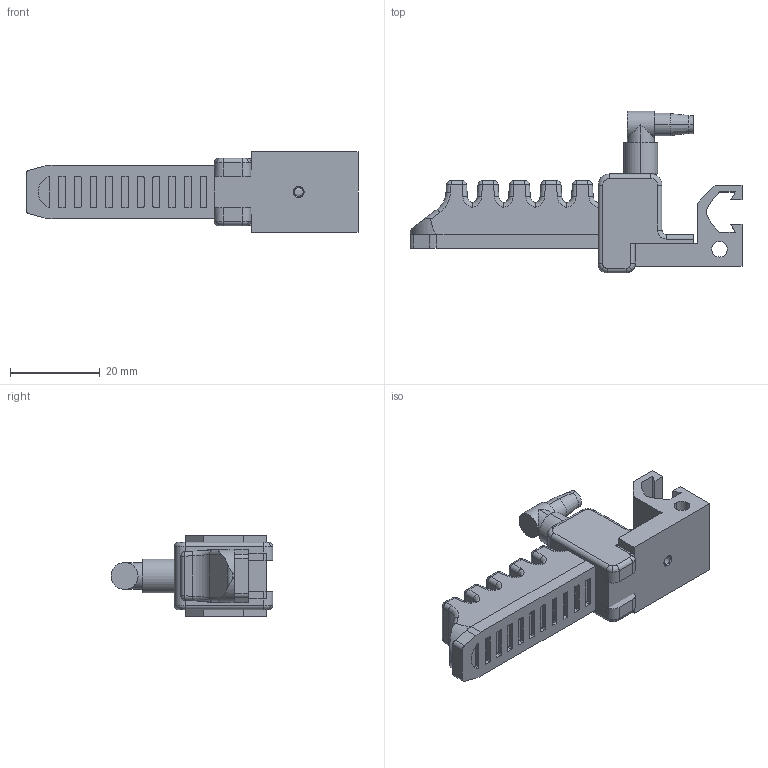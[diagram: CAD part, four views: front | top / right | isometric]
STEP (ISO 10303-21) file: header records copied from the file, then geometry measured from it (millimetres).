
FILE_DESCRIPTION (( 'STEP AP214' ), '1' );
FILE_NAME ('GFM-C6V5.STEP', '2019-12-04T05:57:38', ( '微软用户' ), ( '微软中国' ), 'SwSTEP 2.0', 'SolidWorks 2016', '' );
FILE_SCHEMA (( 'AUTOMOTIVE_DESIGN' ));
Length unit declared in the file: millimetre
Products named in the file (1): GFM-C6V5
Bounding box: 73.85 x 36 x 18 mm (x, y, z)
Volume: 13395.5 mm3; surface area: 9314.9 mm2
Topology: 4 solids, 4 shells, 365 faces, 878 edges, 536 vertices
Faces by surface type: cylinder 164, plane 135, sphere 22, bspline 22, torus 14, cone 8
Entity records: 16154 total; most frequent: CARTESIAN_POINT 3629, DIRECTION 1796, ORIENTED_EDGE 1756, EDGE_CURVE 878, AXIS2_PLACEMENT_3D 655, VERTEX_POINT 536, VECTOR 486, LINE 486
